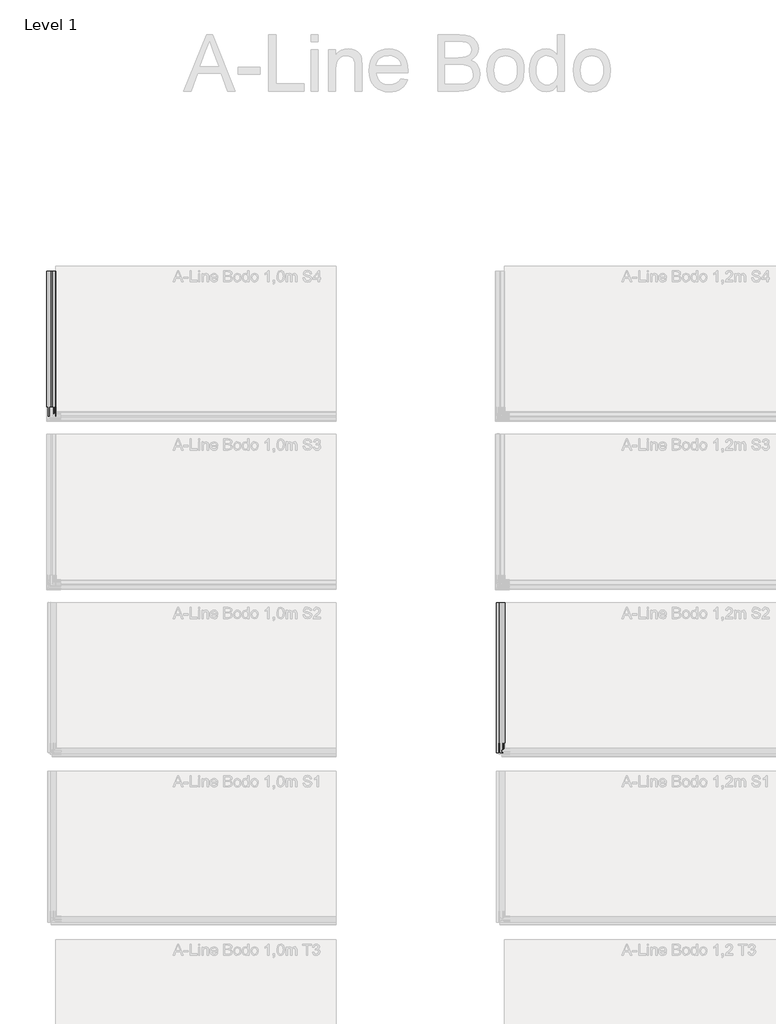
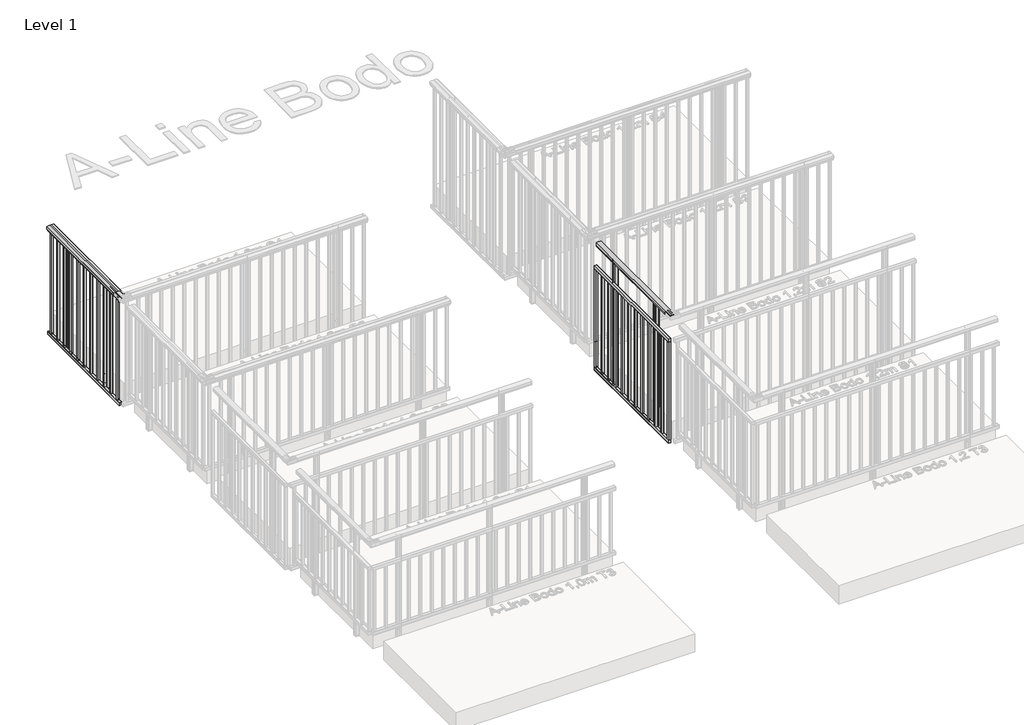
# One storey, part 12 of 66: 2 railings.
"""IFC4 building model written with IfcOpenShell, lengths in millimetres."""

from ifc_helpers import new_model, si_unit, point, frame, frame_2d, origin, place, context, project, spatial, polyline, circle_curve, trimmed, segment, composite_curve, outline, extrude, element, save

model = new_model("IFC4")

# Units and contexts
model_context = context("Model", 3, world=origin())
ifc_project = project(units=[si_unit("LENGTHUNIT", "METRE", prefix="MILLI")], contexts=[model_context])

# Site, building, storey
site = spatial("IfcSite", under=ifc_project)
building = spatial("IfcBuilding", under=site)
storey = spatial("IfcBuildingStorey", under=building, Name="Level 1", Elevation=0.0)

# Railings
placement = place(None, origin())
element("IfcRailing", 1, ObjectType="A-Line Bodo 1,0m S4", at=placement, inside=storey, context=model_context, shape_type="SweptSolid", body=[
    extrude(outline(composite_curve([segment(polyline([(970.6825033, 4424.0540283), (970.0570224, 4424.6795093), (969.4717338, 4424.0942207), (965.5021186, 4424.0540283)]), True, "CONTINUOUS"), segment(trimmed(circle_curve(frame_2d((965.5021186, 4424.5540283)), 0.5), [point((965.5021186, 4424.0540283))], [point((965.0021186, 4424.5540283))], False, "CARTESIAN"), True, "CONTINUOUS"), segment(polyline([(965.0021186, 4424.5540283), (965.0021186, 4425.5540283), (979.5021186, 4425.5540283)]), True, "CONTINUOUS"), segment(trimmed(circle_curve(frame_2d((979.5021186, 4426.0540283)), 0.5), [point((979.5021186, 4425.5540283))], [point((980.0021186, 4426.0540283))], True, "CARTESIAN"), True, "CONTINUOUS"), segment(polyline([(980.0021186, 4426.0540283), (980.0021186, 4504.0540283)]), True, "CONTINUOUS"), segment(trimmed(circle_curve(frame_2d((979.5021186, 4504.0540283)), 0.5), [point((980.0021186, 4504.0540283))], [point((979.5021186, 4504.5540283))], True, "CARTESIAN"), True, "CONTINUOUS"), segment(polyline([(979.5021186, 4504.5540283), (965.0021186, 4504.5540283), (965.0021186, 4505.5540283)]), True, "CONTINUOUS"), segment(trimmed(circle_curve(frame_2d((965.5021186, 4505.5540283)), 0.5), [point((965.0021186, 4505.5540283))], [point((965.5021186, 4506.0540283))], False, "CARTESIAN"), True, "CONTINUOUS"), segment(polyline([(965.5021186, 4506.0540283), (969.2627449, 4506.0540283), (969.9177203, 4505.3990529), (970.5325033, 4506.0138359), (991.2139911, 4506.0540283)]), True, "CONTINUOUS"), segment(trimmed(circle_curve(frame_2d((991.2139911, 4503.0540283)), 3.0), [point((991.2139911, 4506.0540283))], [point((994.0180233, 4504.1205197))], False, "CARTESIAN"), True, "CONTINUOUS"), segment(trimmed(circle_curve(frame_2d((908.3938053, 4471.5540283)), 91.6083133), [point((994.0180233, 4504.1205197))], [point((1000.0021186, 4471.5540283))], False, "CARTESIAN"), True, "CONTINUOUS"), segment(polyline([(1000.0021186, 4471.5540283), (1000.0021186, 4458.5540283)]), True, "CONTINUOUS"), segment(trimmed(circle_curve(frame_2d((908.3938053, 4458.5540283)), 91.6083133), [point((1000.0021186, 4458.5540283))], [point((994.0180233, 4425.987537))], False, "CARTESIAN"), True, "CONTINUOUS"), segment(trimmed(circle_curve(frame_2d((991.2139911, 4427.0540283)), 3.0), [point((994.0180233, 4425.987537))], [point((991.2139911, 4424.0540283))], False, "CARTESIAN"), True, "CONTINUOUS"), segment(polyline([(991.2139911, 4424.0540283), (970.6825033, 4424.0540283)]), True, "CONTINUOUS")], self_intersect=False)), frame((0.0, -13108.5446761, 0.0), z_axis=(0.0, 1.0, 0.0), x_axis=(0.0, 0.0, 1.0)), (0.0, 0.0, 1.0), 1295.0),
    extrude(outline(composite_curve([segment(polyline([(977.0, 4434.5047322), (944.8, 4434.5047322)]), True, "CONTINUOUS"), segment(trimmed(circle_curve(frame_2d((944.8, 4435.5047322)), 1.0), [point((944.8, 4434.5047322))], [point((943.8, 4435.5047322))], False, "CARTESIAN"), True, "CONTINUOUS"), segment(polyline([(943.8, 4435.5047322), (943.8, 4462.6047322)]), True, "CONTINUOUS"), segment(trimmed(circle_curve(frame_2d((944.8, 4462.6047322)), 1.0), [point((943.8, 4462.6047322))], [point((944.8, 4463.6047322))], False, "CARTESIAN"), True, "CONTINUOUS"), segment(polyline([(944.8, 4463.6047322), (977.0, 4463.6047322)]), True, "CONTINUOUS"), segment(trimmed(circle_curve(frame_2d((977.0, 4462.6047322)), 1.0), [point((977.0, 4463.6047322))], [point((978.0, 4462.6047322))], False, "CARTESIAN"), True, "CONTINUOUS"), segment(polyline([(978.0, 4462.6047322), (978.0, 4435.5047322)]), True, "CONTINUOUS"), segment(trimmed(circle_curve(frame_2d((977.0, 4435.5047322)), 1.0), [point((978.0, 4435.5047322))], [point((977.0, 4434.5047322))], False, "CARTESIAN"), True, "CONTINUOUS")], self_intersect=False)), frame((0.0, -13108.5446761, 0.0), z_axis=(0.0, 1.0, 0.0), x_axis=(0.0, 0.0, 1.0)), (0.0, 0.0, 1.0), 1295.0),
    extrude(outline(composite_curve([segment(trimmed(circle_curve(frame_2d((-166.8, 4435.5047322)), 1.0), [point((-165.8, 4435.5047322))], [point((-166.8, 4434.5047322))], False, "CARTESIAN"), True, "CONTINUOUS"), segment(polyline([(-166.8, 4434.5047322), (-199.0, 4434.5047322)]), True, "CONTINUOUS"), segment(trimmed(circle_curve(frame_2d((-199.0, 4435.5047322)), 1.0), [point((-199.0, 4434.5047322))], [point((-200.0, 4435.5047322))], False, "CARTESIAN"), True, "CONTINUOUS"), segment(polyline([(-200.0, 4435.5047322), (-200.0, 4462.6047322)]), True, "CONTINUOUS"), segment(trimmed(circle_curve(frame_2d((-199.0, 4462.6047322)), 1.0), [point((-200.0, 4462.6047322))], [point((-199.0, 4463.6047322))], False, "CARTESIAN"), True, "CONTINUOUS"), segment(polyline([(-199.0, 4463.6047322), (-166.8, 4463.6047322)]), True, "CONTINUOUS"), segment(trimmed(circle_curve(frame_2d((-166.8, 4462.6047322)), 1.0), [point((-166.8, 4463.6047322))], [point((-165.8, 4462.6047322))], False, "CARTESIAN"), True, "CONTINUOUS"), segment(polyline([(-165.8, 4462.6047322), (-165.8, 4435.5047322)]), True, "CONTINUOUS")], self_intersect=False)), frame((0.0, -13108.5446761, 0.0), z_axis=(0.0, 1.0, 0.0), x_axis=(0.0, 0.0, 1.0)), (0.0, 0.0, 1.0), 1295.0),
    extrude(outline(polyline([(4439.0547322, -13051.0446761), (4459.0547322, -13051.0446761), (4459.0547322, -13071.0446761), (4439.0547322, -13071.0446761), (4439.0547322, -13051.0446761)]), holes=[polyline([(4441.0547322, -13053.0446761), (4441.0547322, -13069.0446761), (4457.0547322, -13069.0446761), (4457.0547322, -13053.0446761), (4441.0547322, -13053.0446761)])]), frame((0.0, 0.0, -166.0), z_axis=(0.0, 0.0, 1.0), x_axis=(1.0, 0.0, 0.0)), (0.0, 0.0, 1.0), 1110.0),
    extrude(outline(polyline([(4439.0547322, -12931.0446761), (4459.0547322, -12931.0446761), (4459.0547322, -12951.0446761), (4439.0547322, -12951.0446761), (4439.0547322, -12931.0446761)]), holes=[polyline([(4441.0547322, -12933.0446761), (4441.0547322, -12949.0446761), (4457.0547322, -12949.0446761), (4457.0547322, -12933.0446761), (4441.0547322, -12933.0446761)])]), frame((0.0, 0.0, -166.0), z_axis=(0.0, 0.0, 1.0), x_axis=(1.0, 0.0, 0.0)), (0.0, 0.0, 1.0), 1110.0),
    extrude(outline(polyline([(4439.0547322, -12811.0446761), (4459.0547322, -12811.0446761), (4459.0547322, -12831.0446761), (4439.0547322, -12831.0446761), (4439.0547322, -12811.0446761)]), holes=[polyline([(4441.0547322, -12813.0446761), (4441.0547322, -12829.0446761), (4457.0547322, -12829.0446761), (4457.0547322, -12813.0446761), (4441.0547322, -12813.0446761)])]), frame((0.0, 0.0, -166.0), z_axis=(0.0, 0.0, 1.0), x_axis=(1.0, 0.0, 0.0)), (0.0, 0.0, 1.0), 1110.0),
    extrude(outline(polyline([(4439.0547322, -12691.0446761), (4459.0547322, -12691.0446761), (4459.0547322, -12711.0446761), (4439.0547322, -12711.0446761), (4439.0547322, -12691.0446761)]), holes=[polyline([(4441.0547322, -12693.0446761), (4441.0547322, -12709.0446761), (4457.0547322, -12709.0446761), (4457.0547322, -12693.0446761), (4441.0547322, -12693.0446761)])]), frame((0.0, 0.0, -166.0), z_axis=(0.0, 0.0, 1.0), x_axis=(1.0, 0.0, 0.0)), (0.0, 0.0, 1.0), 1110.0),
    extrude(outline(polyline([(4439.0547322, -12571.0446761), (4459.0547322, -12571.0446761), (4459.0547322, -12591.0446761), (4439.0547322, -12591.0446761), (4439.0547322, -12571.0446761)]), holes=[polyline([(4441.0547322, -12573.0446761), (4441.0547322, -12589.0446761), (4457.0547322, -12589.0446761), (4457.0547322, -12573.0446761), (4441.0547322, -12573.0446761)])]), frame((0.0, 0.0, -166.0), z_axis=(0.0, 0.0, 1.0), x_axis=(1.0, 0.0, 0.0)), (0.0, 0.0, 1.0), 1110.0),
    extrude(outline(polyline([(4439.0547322, -12451.0446761), (4459.0547322, -12451.0446761), (4459.0547322, -12471.0446761), (4439.0547322, -12471.0446761), (4439.0547322, -12451.0446761)]), holes=[polyline([(4441.0547322, -12453.0446761), (4441.0547322, -12469.0446761), (4457.0547322, -12469.0446761), (4457.0547322, -12453.0446761), (4441.0547322, -12453.0446761)])]), frame((0.0, 0.0, -166.0), z_axis=(0.0, 0.0, 1.0), x_axis=(1.0, 0.0, 0.0)), (0.0, 0.0, 1.0), 1110.0),
    extrude(outline(polyline([(4439.0547322, -12331.0446761), (4459.0547322, -12331.0446761), (4459.0547322, -12351.0446761), (4439.0547322, -12351.0446761), (4439.0547322, -12331.0446761)]), holes=[polyline([(4441.0547322, -12333.0446761), (4441.0547322, -12349.0446761), (4457.0547322, -12349.0446761), (4457.0547322, -12333.0446761), (4441.0547322, -12333.0446761)])]), frame((0.0, 0.0, -166.0), z_axis=(0.0, 0.0, 1.0), x_axis=(1.0, 0.0, 0.0)), (0.0, 0.0, 1.0), 1110.0),
    extrude(outline(polyline([(4439.0547322, -12211.0446761), (4459.0547322, -12211.0446761), (4459.0547322, -12231.0446761), (4439.0547322, -12231.0446761), (4439.0547322, -12211.0446761)]), holes=[polyline([(4441.0547322, -12213.0446761), (4441.0547322, -12229.0446761), (4457.0547322, -12229.0446761), (4457.0547322, -12213.0446761), (4441.0547322, -12213.0446761)])]), frame((0.0, 0.0, -166.0), z_axis=(0.0, 0.0, 1.0), x_axis=(1.0, 0.0, 0.0)), (0.0, 0.0, 1.0), 1110.0),
    extrude(outline(polyline([(4439.0547322, -12091.0446761), (4459.0547322, -12091.0446761), (4459.0547322, -12111.0446761), (4439.0547322, -12111.0446761), (4439.0547322, -12091.0446761)]), holes=[polyline([(4441.0547322, -12093.0446761), (4441.0547322, -12109.0446761), (4457.0547322, -12109.0446761), (4457.0547322, -12093.0446761), (4441.0547322, -12093.0446761)])]), frame((0.0, 0.0, -166.0), z_axis=(0.0, 0.0, 1.0), x_axis=(1.0, 0.0, 0.0)), (0.0, 0.0, 1.0), 1110.0),
    extrude(outline(polyline([(4439.0547322, -11971.0446761), (4459.0547322, -11971.0446761), (4459.0547322, -11991.0446761), (4439.0547322, -11991.0446761), (4439.0547322, -11971.0446761)]), holes=[polyline([(4441.0547322, -11973.0446761), (4441.0547322, -11989.0446761), (4457.0547322, -11989.0446761), (4457.0547322, -11973.0446761), (4441.0547322, -11973.0446761)])]), frame((0.0, 0.0, -166.0), z_axis=(0.0, 0.0, 1.0), x_axis=(1.0, 0.0, 0.0)), (0.0, 0.0, 1.0), 1110.0),
    extrude(outline(polyline([(4439.0547322, -11851.0446761), (4459.0547322, -11851.0446761), (4459.0547322, -11871.0446761), (4439.0547322, -11871.0446761), (4439.0547322, -11851.0446761)]), holes=[polyline([(4441.0547322, -11853.0446761), (4441.0547322, -11869.0446761), (4457.0547322, -11869.0446761), (4457.0547322, -11853.0446761), (4441.0547322, -11853.0446761)])]), frame((0.0, 0.0, -166.0), z_axis=(0.0, 0.0, 1.0), x_axis=(1.0, 0.0, 0.0)), (0.0, 0.0, 1.0), 1110.0),
    extrude(outline(composite_curve([segment(polyline([(4504.0547322, -12809.3474631), (4504.0547322, -12826.370763)]), True, "CONTINUOUS"), segment(trimmed(circle_curve(frame_2d((4501.8808192, -12826.370763)), 2.173913), [point((4504.0547322, -12826.370763))], [point((4501.8808192, -12828.5446761))], False, "CARTESIAN"), True, "CONTINUOUS"), segment(polyline([(4501.8808192, -12828.5446761), (4466.2286453, -12828.5446761)]), True, "CONTINUOUS"), segment(trimmed(circle_curve(frame_2d((4466.2286453, -12826.370763)), 2.173913), [point((4466.2286453, -12828.5446761))], [point((4464.0547322, -12826.370763))], False, "CARTESIAN"), True, "CONTINUOUS"), segment(polyline([(4464.0547322, -12826.370763), (4464.0896821, -12809.3125132), (4464.8575193, -12808.5446761), (4464.0896821, -12807.7768389), (4464.0547322, -12790.7185891)]), True, "CONTINUOUS"), segment(trimmed(circle_curve(frame_2d((4466.2286453, -12790.7185891)), 2.173913), [point((4464.0547322, -12790.7185891))], [point((4466.2286453, -12788.5446761))], False, "CARTESIAN"), True, "CONTINUOUS"), segment(polyline([(4466.2286453, -12788.5446761), (4501.8808192, -12788.5446761)]), True, "CONTINUOUS"), segment(trimmed(circle_curve(frame_2d((4501.8808192, -12790.7185891)), 2.173913), [point((4501.8808192, -12788.5446761))], [point((4504.0547322, -12790.718589))], False, "CARTESIAN"), True, "CONTINUOUS"), segment(polyline([(4504.0547322, -12790.718589), (4504.0197823, -12807.7768389), (4503.2519452, -12808.5446761), (4504.0547322, -12809.3474631)]), True, "CONTINUOUS")], self_intersect=False)), frame((0.0, 0.0, -200.0), z_axis=(0.0, 0.0, 1.0), x_axis=(1.0, 0.0, 0.0)), (0.0, 0.0, 1.0), 10.0),
    extrude(outline(composite_curve([segment(trimmed(circle_curve(frame_2d((4501.8808192, -12790.7185891)), 2.173913), [point((4501.8808192, -12788.5446761))], [point((4504.0547322, -12790.7185891))], False, "CARTESIAN"), True, "CONTINUOUS"), segment(polyline([(4504.0547322, -12790.7185891), (4504.0197823, -12807.7768389), (4503.6517779, -12808.6751108), (4504.0547322, -12809.442948), (4504.0547322, -12826.370763)]), True, "CONTINUOUS"), segment(trimmed(circle_curve(frame_2d((4501.8808192, -12826.370763)), 2.173913), [point((4504.0547322, -12826.370763))], [point((4501.8808192, -12828.5446761))], False, "CARTESIAN"), True, "CONTINUOUS"), segment(polyline([(4501.8808192, -12828.5446761), (4466.2286453, -12828.5446761)]), True, "CONTINUOUS"), segment(trimmed(circle_curve(frame_2d((4466.2286453, -12826.370763)), 2.173913), [point((4466.2286453, -12828.5446761))], [point((4464.0547322, -12826.370763))], False, "CARTESIAN"), True, "CONTINUOUS"), segment(polyline([(4464.0547322, -12826.370763), (4464.0896821, -12809.3125132), (4464.8575193, -12808.5446761), (4464.0896821, -12807.7768389), (4464.0547322, -12790.7185891)]), True, "CONTINUOUS"), segment(trimmed(circle_curve(frame_2d((4466.2286453, -12790.7185891)), 2.173913), [point((4464.0547322, -12790.7185891))], [point((4466.2286453, -12788.5446761))], False, "CARTESIAN"), True, "CONTINUOUS"), segment(polyline([(4466.2286453, -12788.5446761), (4501.8808192, -12788.5446761)]), True, "CONTINUOUS")], self_intersect=False), holes=[composite_curve([segment(polyline([(4499.7069062, -12792.0229369), (4468.4025583, -12792.0229369)]), True, "CONTINUOUS"), segment(trimmed(circle_curve(frame_2d((4468.4025583, -12792.8925022)), 0.8695652), [point((4468.4025583, -12792.0229369))], [point((4467.5329931, -12792.8925022))], True, "CARTESIAN"), True, "CONTINUOUS"), segment(polyline([(4467.5329931, -12792.8925022), (4467.5329931, -12824.19685)]), True, "CONTINUOUS"), segment(trimmed(circle_curve(frame_2d((4468.4025583, -12824.19685)), 0.8695652), [point((4467.5329931, -12824.19685))], [point((4468.4025583, -12825.0664152))], True, "CARTESIAN"), True, "CONTINUOUS"), segment(polyline([(4468.4025583, -12825.0664152), (4499.7069062, -12825.0664152)]), True, "CONTINUOUS"), segment(trimmed(circle_curve(frame_2d((4499.7069062, -12824.19685)), 0.8695652), [point((4499.7069062, -12825.0664152))], [point((4500.5764714, -12824.19685))], True, "CARTESIAN"), True, "CONTINUOUS"), segment(polyline([(4500.5764714, -12824.19685), (4500.5764714, -12792.8925022)]), True, "CONTINUOUS"), segment(trimmed(circle_curve(frame_2d((4499.7069062, -12792.8925022)), 0.8695652), [point((4500.5764714, -12792.8925022))], [point((4499.7069062, -12792.0229369))], True, "CARTESIAN"), True, "CONTINUOUS")], self_intersect=False)]), frame((0.0, 0.0, -190.0), z_axis=(0.0, 0.0, 1.0), x_axis=(1.0, 0.0, 0.0)), (0.0, 0.0, 1.0), 1171.0),
    extrude(outline(composite_curve([segment(trimmed(circle_curve(frame_2d((0.0, 12.0)), 12.0), [point((0.0, 23.9999999))], [point((0.0, 0.0))], False, "CARTESIAN"), True, "CONTINUOUS"), segment(trimmed(circle_curve(frame_2d((0.0, 12.0)), 12.0), [point((0.0, 0.0))], [point((0.0, 23.9999999))], False, "CARTESIAN"), True, "CONTINUOUS")], self_intersect=False)), frame((4464.0666505, -12796.5356385, -151.0), z_axis=(-0.9999999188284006, 0.00040291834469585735, 0.0), x_axis=(0.0, 0.0, -1.0)), (0.0, 0.0, 1.0), 3.0757477),
    extrude(outline(composite_curve([segment(trimmed(circle_curve(frame_2d((0.0, 12.0)), 12.0), [point((0.0, 23.9999999))], [point((0.0, 0.0))], False, "CARTESIAN"), True, "CONTINUOUS"), segment(trimmed(circle_curve(frame_2d((0.0, 12.0)), 12.0), [point((0.0, 0.0))], [point((0.0, 23.9999999))], False, "CARTESIAN"), True, "CONTINUOUS")], self_intersect=False)), frame((4464.0666505, -12796.5356385, -50.0), z_axis=(-0.9999999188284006, 0.00040291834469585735, 0.0), x_axis=(0.0, 0.0, -1.0)), (0.0, 0.0, 1.0), 3.0757477),
    extrude(outline(composite_curve([segment(polyline([(4504.0547322, -12114.3474631), (4504.0547322, -12131.370763)]), True, "CONTINUOUS"), segment(trimmed(circle_curve(frame_2d((4501.8808192, -12131.370763)), 2.173913), [point((4504.0547322, -12131.370763))], [point((4501.8808192, -12133.5446761))], False, "CARTESIAN"), True, "CONTINUOUS"), segment(polyline([(4501.8808192, -12133.5446761), (4466.2286453, -12133.5446761)]), True, "CONTINUOUS"), segment(trimmed(circle_curve(frame_2d((4466.2286453, -12131.370763)), 2.173913), [point((4466.2286453, -12133.5446761))], [point((4464.0547322, -12131.370763))], False, "CARTESIAN"), True, "CONTINUOUS"), segment(polyline([(4464.0547322, -12131.370763), (4464.0896821, -12114.3125132), (4464.8575193, -12113.5446761), (4464.0896821, -12112.7768389), (4464.0547322, -12095.7185891)]), True, "CONTINUOUS"), segment(trimmed(circle_curve(frame_2d((4466.2286453, -12095.7185891)), 2.173913), [point((4464.0547322, -12095.7185891))], [point((4466.2286453, -12093.5446761))], False, "CARTESIAN"), True, "CONTINUOUS"), segment(polyline([(4466.2286453, -12093.5446761), (4501.8808192, -12093.5446761)]), True, "CONTINUOUS"), segment(trimmed(circle_curve(frame_2d((4501.8808192, -12095.7185891)), 2.173913), [point((4501.8808192, -12093.5446761))], [point((4504.0547322, -12095.718589))], False, "CARTESIAN"), True, "CONTINUOUS"), segment(polyline([(4504.0547322, -12095.718589), (4504.0197823, -12112.7768389), (4503.2519452, -12113.5446761), (4504.0547322, -12114.3474631)]), True, "CONTINUOUS")], self_intersect=False)), frame((0.0, 0.0, -200.0), z_axis=(0.0, 0.0, 1.0), x_axis=(1.0, 0.0, 0.0)), (0.0, 0.0, 1.0), 10.0),
    extrude(outline(composite_curve([segment(trimmed(circle_curve(frame_2d((4501.8808192, -12095.7185891)), 2.173913), [point((4501.8808192, -12093.5446761))], [point((4504.0547322, -12095.7185891))], False, "CARTESIAN"), True, "CONTINUOUS"), segment(polyline([(4504.0547322, -12095.7185891), (4504.0197823, -12112.7768389), (4503.6517779, -12113.6751108), (4504.0547322, -12114.442948), (4504.0547322, -12131.370763)]), True, "CONTINUOUS"), segment(trimmed(circle_curve(frame_2d((4501.8808192, -12131.370763)), 2.173913), [point((4504.0547322, -12131.370763))], [point((4501.8808192, -12133.5446761))], False, "CARTESIAN"), True, "CONTINUOUS"), segment(polyline([(4501.8808192, -12133.5446761), (4466.2286453, -12133.5446761)]), True, "CONTINUOUS"), segment(trimmed(circle_curve(frame_2d((4466.2286453, -12131.370763)), 2.173913), [point((4466.2286453, -12133.5446761))], [point((4464.0547322, -12131.370763))], False, "CARTESIAN"), True, "CONTINUOUS"), segment(polyline([(4464.0547322, -12131.370763), (4464.0896821, -12114.3125132), (4464.8575193, -12113.5446761), (4464.0896821, -12112.7768389), (4464.0547322, -12095.7185891)]), True, "CONTINUOUS"), segment(trimmed(circle_curve(frame_2d((4466.2286453, -12095.7185891)), 2.173913), [point((4464.0547322, -12095.7185891))], [point((4466.2286453, -12093.5446761))], False, "CARTESIAN"), True, "CONTINUOUS"), segment(polyline([(4466.2286453, -12093.5446761), (4501.8808192, -12093.5446761)]), True, "CONTINUOUS")], self_intersect=False), holes=[composite_curve([segment(polyline([(4499.7069062, -12097.0229369), (4468.4025583, -12097.0229369)]), True, "CONTINUOUS"), segment(trimmed(circle_curve(frame_2d((4468.4025583, -12097.8925022)), 0.8695652), [point((4468.4025583, -12097.0229369))], [point((4467.5329931, -12097.8925022))], True, "CARTESIAN"), True, "CONTINUOUS"), segment(polyline([(4467.5329931, -12097.8925022), (4467.5329931, -12129.19685)]), True, "CONTINUOUS"), segment(trimmed(circle_curve(frame_2d((4468.4025583, -12129.19685)), 0.8695652), [point((4467.5329931, -12129.19685))], [point((4468.4025583, -12130.0664152))], True, "CARTESIAN"), True, "CONTINUOUS"), segment(polyline([(4468.4025583, -12130.0664152), (4499.7069062, -12130.0664152)]), True, "CONTINUOUS"), segment(trimmed(circle_curve(frame_2d((4499.7069062, -12129.19685)), 0.8695652), [point((4499.7069062, -12130.0664152))], [point((4500.5764714, -12129.19685))], True, "CARTESIAN"), True, "CONTINUOUS"), segment(polyline([(4500.5764714, -12129.19685), (4500.5764714, -12097.8925022)]), True, "CONTINUOUS"), segment(trimmed(circle_curve(frame_2d((4499.7069062, -12097.8925022)), 0.8695652), [point((4500.5764714, -12097.8925022))], [point((4499.7069062, -12097.0229369))], True, "CARTESIAN"), True, "CONTINUOUS")], self_intersect=False)]), frame((0.0, 0.0, -190.0), z_axis=(0.0, 0.0, 1.0), x_axis=(1.0, 0.0, 0.0)), (0.0, 0.0, 1.0), 1171.0),
    extrude(outline(composite_curve([segment(trimmed(circle_curve(frame_2d((0.0, 12.0)), 12.0), [point((0.0, 23.9999999))], [point((0.0, 0.0))], False, "CARTESIAN"), True, "CONTINUOUS"), segment(trimmed(circle_curve(frame_2d((0.0, 12.0)), 12.0), [point((0.0, 0.0))], [point((0.0, 23.9999999))], False, "CARTESIAN"), True, "CONTINUOUS")], self_intersect=False)), frame((4464.0666505, -12101.5356385, -151.0), z_axis=(-0.9999999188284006, 0.00040291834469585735, 0.0), x_axis=(0.0, 0.0, -1.0)), (0.0, 0.0, 1.0), 3.0757477),
    extrude(outline(composite_curve([segment(trimmed(circle_curve(frame_2d((0.0, 12.0)), 12.0), [point((0.0, 23.9999999))], [point((0.0, 0.0))], False, "CARTESIAN"), True, "CONTINUOUS"), segment(trimmed(circle_curve(frame_2d((0.0, 12.0)), 12.0), [point((0.0, 0.0))], [point((0.0, 23.9999999))], False, "CARTESIAN"), True, "CONTINUOUS")], self_intersect=False)), frame((4464.0666505, -12101.5356385, -50.0), z_axis=(-0.9999999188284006, 0.00040291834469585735, 0.0), x_axis=(0.0, 0.0, -1.0)), (0.0, 0.0, 1.0), 3.0757477),
])
element("IfcRailing", 2, ObjectType="A-Line Bodo 1,2m S2", at=placement, inside=storey, context=model_context, shape_type="SweptSolid", body=[
    extrude(outline(composite_curve([segment(trimmed(circle_curve(frame_2d((1142.6785502, 8483.339356)), 57.3235687), [point((1194.1390059, 8508.5943162))], [point((1194.1342258, 8458.074658))], False, "CARTESIAN"), True, "CONTINUOUS"), segment(polyline([(1194.1342258, 8458.074658), (1167.0235023, 8458.074658), (1166.4415706, 8458.6565897), (1165.8194895, 8458.0345086), (1157.2498847, 8458.0345086), (1157.2498847, 8459.8394615), (1180.4998829, 8459.8394615), (1180.4998829, 8506.8345077), (1157.2498847, 8506.8345077), (1157.2498847, 8508.5943162), (1165.9694895, 8508.5943162), (1166.5842725, 8507.9795332), (1167.1990555, 8508.5943162), (1194.1390059, 8508.5943162)]), True, "CONTINUOUS")], self_intersect=False)), frame((0.0, -16104.7113559, 0.0), z_axis=(0.0, 1.0, 0.0), x_axis=(0.0, 0.0, 1.0)), (0.0, 0.0, 1.0), 1335.0),
    extrude(outline(composite_curve([segment(polyline([(949.0, 8434.5047322), (916.8, 8434.5047322)]), True, "CONTINUOUS"), segment(trimmed(circle_curve(frame_2d((916.8, 8435.5047322)), 1.0), [point((916.8, 8434.5047322))], [point((915.8, 8435.5047322))], False, "CARTESIAN"), True, "CONTINUOUS"), segment(polyline([(915.8, 8435.5047322), (915.8, 8462.6047322)]), True, "CONTINUOUS"), segment(trimmed(circle_curve(frame_2d((916.8, 8462.6047322)), 1.0), [point((915.8, 8462.6047322))], [point((916.8, 8463.6047322))], False, "CARTESIAN"), True, "CONTINUOUS"), segment(polyline([(916.8, 8463.6047322), (949.0, 8463.6047322)]), True, "CONTINUOUS"), segment(trimmed(circle_curve(frame_2d((949.0, 8462.6047322)), 1.0), [point((949.0, 8463.6047322))], [point((950.0, 8462.6047322))], False, "CARTESIAN"), True, "CONTINUOUS"), segment(polyline([(950.0, 8462.6047322), (950.0, 8435.5047322)]), True, "CONTINUOUS"), segment(trimmed(circle_curve(frame_2d((949.0, 8435.5047322)), 1.0), [point((950.0, 8435.5047322))], [point((949.0, 8434.5047322))], False, "CARTESIAN"), True, "CONTINUOUS")], self_intersect=False)), frame((0.0, -16104.7113559, 0.0), z_axis=(0.0, 1.0, 0.0), x_axis=(0.0, 0.0, 1.0)), (0.0, 0.0, 1.0), 1335.0),
    extrude(outline(composite_curve([segment(trimmed(circle_curve(frame_2d((-166.8, 8435.5047322)), 1.0), [point((-165.8, 8435.5047322))], [point((-166.8, 8434.5047322))], False, "CARTESIAN"), True, "CONTINUOUS"), segment(polyline([(-166.8, 8434.5047322), (-199.0, 8434.5047322)]), True, "CONTINUOUS"), segment(trimmed(circle_curve(frame_2d((-199.0, 8435.5047322)), 1.0), [point((-199.0, 8434.5047322))], [point((-200.0, 8435.5047322))], False, "CARTESIAN"), True, "CONTINUOUS"), segment(polyline([(-200.0, 8435.5047322), (-200.0, 8462.6047322)]), True, "CONTINUOUS"), segment(trimmed(circle_curve(frame_2d((-199.0, 8462.6047322)), 1.0), [point((-200.0, 8462.6047322))], [point((-199.0, 8463.6047322))], False, "CARTESIAN"), True, "CONTINUOUS"), segment(polyline([(-199.0, 8463.6047322), (-166.8, 8463.6047322)]), True, "CONTINUOUS"), segment(trimmed(circle_curve(frame_2d((-166.8, 8462.6047322)), 1.0), [point((-166.8, 8463.6047322))], [point((-165.8, 8462.6047322))], False, "CARTESIAN"), True, "CONTINUOUS"), segment(polyline([(-165.8, 8462.6047322), (-165.8, 8435.5047322)]), True, "CONTINUOUS")], self_intersect=False)), frame((0.0, -16104.7113559, 0.0), z_axis=(0.0, 1.0, 0.0), x_axis=(0.0, 0.0, 1.0)), (0.0, 0.0, 1.0), 1335.0),
    extrude(outline(polyline([(8439.0547322, -16087.2113559), (8459.0547322, -16087.2113559), (8459.0547322, -16107.2113559), (8439.0547322, -16107.2113559), (8439.0547322, -16087.2113559)]), holes=[polyline([(8441.0547322, -16089.2113559), (8441.0547322, -16105.2113559), (8457.0547322, -16105.2113559), (8457.0547322, -16089.2113559), (8441.0547322, -16089.2113559)])]), frame((0.0, 0.0, -166.0), z_axis=(0.0, 0.0, 1.0), x_axis=(1.0, 0.0, 0.0)), (0.0, 0.0, 1.0), 1082.0),
    extrude(outline(polyline([(8439.0547322, -15967.2113559), (8459.0547322, -15967.2113559), (8459.0547322, -15987.2113559), (8439.0547322, -15987.2113559), (8439.0547322, -15967.2113559)]), holes=[polyline([(8441.0547322, -15969.2113559), (8441.0547322, -15985.2113559), (8457.0547322, -15985.2113559), (8457.0547322, -15969.2113559), (8441.0547322, -15969.2113559)])]), frame((0.0, 0.0, -166.0), z_axis=(0.0, 0.0, 1.0), x_axis=(1.0, 0.0, 0.0)), (0.0, 0.0, 1.0), 1082.0),
    extrude(outline(polyline([(8439.0547322, -15847.2113559), (8459.0547322, -15847.2113559), (8459.0547322, -15867.2113559), (8439.0547322, -15867.2113559), (8439.0547322, -15847.2113559)]), holes=[polyline([(8441.0547322, -15849.2113559), (8441.0547322, -15865.2113559), (8457.0547322, -15865.2113559), (8457.0547322, -15849.2113559), (8441.0547322, -15849.2113559)])]), frame((0.0, 0.0, -166.0), z_axis=(0.0, 0.0, 1.0), x_axis=(1.0, 0.0, 0.0)), (0.0, 0.0, 1.0), 1082.0),
    extrude(outline(polyline([(8439.0547322, -15727.2113559), (8459.0547322, -15727.2113559), (8459.0547322, -15747.2113559), (8439.0547322, -15747.2113559), (8439.0547322, -15727.2113559)]), holes=[polyline([(8441.0547322, -15729.2113559), (8441.0547322, -15745.2113559), (8457.0547322, -15745.2113559), (8457.0547322, -15729.2113559), (8441.0547322, -15729.2113559)])]), frame((0.0, 0.0, -166.0), z_axis=(0.0, 0.0, 1.0), x_axis=(1.0, 0.0, 0.0)), (0.0, 0.0, 1.0), 1082.0),
    extrude(outline(polyline([(8439.0547322, -15607.2113559), (8459.0547322, -15607.2113559), (8459.0547322, -15627.2113559), (8439.0547322, -15627.2113559), (8439.0547322, -15607.2113559)]), holes=[polyline([(8441.0547322, -15609.2113559), (8441.0547322, -15625.2113559), (8457.0547322, -15625.2113559), (8457.0547322, -15609.2113559), (8441.0547322, -15609.2113559)])]), frame((0.0, 0.0, -166.0), z_axis=(0.0, 0.0, 1.0), x_axis=(1.0, 0.0, 0.0)), (0.0, 0.0, 1.0), 1082.0),
    extrude(outline(polyline([(8439.0547322, -15487.2113559), (8459.0547322, -15487.2113559), (8459.0547322, -15507.2113559), (8439.0547322, -15507.2113559), (8439.0547322, -15487.2113559)]), holes=[polyline([(8441.0547322, -15489.2113559), (8441.0547322, -15505.2113559), (8457.0547322, -15505.2113559), (8457.0547322, -15489.2113559), (8441.0547322, -15489.2113559)])]), frame((0.0, 0.0, -166.0), z_axis=(0.0, 0.0, 1.0), x_axis=(1.0, 0.0, 0.0)), (0.0, 0.0, 1.0), 1082.0),
    extrude(outline(polyline([(8439.0547322, -15367.2113559), (8459.0547322, -15367.2113559), (8459.0547322, -15387.2113559), (8439.0547322, -15387.2113559), (8439.0547322, -15367.2113559)]), holes=[polyline([(8441.0547322, -15369.2113559), (8441.0547322, -15385.2113559), (8457.0547322, -15385.2113559), (8457.0547322, -15369.2113559), (8441.0547322, -15369.2113559)])]), frame((0.0, 0.0, -166.0), z_axis=(0.0, 0.0, 1.0), x_axis=(1.0, 0.0, 0.0)), (0.0, 0.0, 1.0), 1082.0),
    extrude(outline(polyline([(8439.0547322, -15247.2113559), (8459.0547322, -15247.2113559), (8459.0547322, -15267.2113559), (8439.0547322, -15267.2113559), (8439.0547322, -15247.2113559)]), holes=[polyline([(8441.0547322, -15249.2113559), (8441.0547322, -15265.2113559), (8457.0547322, -15265.2113559), (8457.0547322, -15249.2113559), (8441.0547322, -15249.2113559)])]), frame((0.0, 0.0, -166.0), z_axis=(0.0, 0.0, 1.0), x_axis=(1.0, 0.0, 0.0)), (0.0, 0.0, 1.0), 1082.0),
    extrude(outline(polyline([(8439.0547322, -15127.2113559), (8459.0547322, -15127.2113559), (8459.0547322, -15147.2113559), (8439.0547322, -15147.2113559), (8439.0547322, -15127.2113559)]), holes=[polyline([(8441.0547322, -15129.2113559), (8441.0547322, -15145.2113559), (8457.0547322, -15145.2113559), (8457.0547322, -15129.2113559), (8441.0547322, -15129.2113559)])]), frame((0.0, 0.0, -166.0), z_axis=(0.0, 0.0, 1.0), x_axis=(1.0, 0.0, 0.0)), (0.0, 0.0, 1.0), 1082.0),
    extrude(outline(polyline([(8439.0547322, -15007.2113559), (8459.0547322, -15007.2113559), (8459.0547322, -15027.2113559), (8439.0547322, -15027.2113559), (8439.0547322, -15007.2113559)]), holes=[polyline([(8441.0547322, -15009.2113559), (8441.0547322, -15025.2113559), (8457.0547322, -15025.2113559), (8457.0547322, -15009.2113559), (8441.0547322, -15009.2113559)])]), frame((0.0, 0.0, -166.0), z_axis=(0.0, 0.0, 1.0), x_axis=(1.0, 0.0, 0.0)), (0.0, 0.0, 1.0), 1082.0),
    extrude(outline(polyline([(8439.0547322, -14887.2113559), (8459.0547322, -14887.2113559), (8459.0547322, -14907.2113559), (8439.0547322, -14907.2113559), (8439.0547322, -14887.2113559)]), holes=[polyline([(8441.0547322, -14889.2113559), (8441.0547322, -14905.2113559), (8457.0547322, -14905.2113559), (8457.0547322, -14889.2113559), (8441.0547322, -14889.2113559)])]), frame((0.0, 0.0, -166.0), z_axis=(0.0, 0.0, 1.0), x_axis=(1.0, 0.0, 0.0)), (0.0, 0.0, 1.0), 1082.0),
    extrude(outline(polyline([(8439.0547322, -14767.2113559), (8459.0547322, -14767.2113559), (8459.0547322, -14787.2113559), (8439.0547322, -14787.2113559), (8439.0547322, -14767.2113559)]), holes=[polyline([(8441.0547322, -14769.2113559), (8441.0547322, -14785.2113559), (8457.0547322, -14785.2113559), (8457.0547322, -14769.2113559), (8441.0547322, -14769.2113559)])]), frame((0.0, 0.0, -166.0), z_axis=(0.0, 0.0, 1.0), x_axis=(1.0, 0.0, 0.0)), (0.0, 0.0, 1.0), 1082.0),
    extrude(outline(composite_curve([segment(polyline([(8504.0547322, -15805.5141429), (8504.0547322, -15822.5374429)]), True, "CONTINUOUS"), segment(trimmed(circle_curve(frame_2d((8501.8808192, -15822.5374429)), 2.173913), [point((8504.0547322, -15822.5374429))], [point((8501.8808192, -15824.7113559))], False, "CARTESIAN"), True, "CONTINUOUS"), segment(polyline([(8501.8808192, -15824.7113559), (8466.2286453, -15824.7113559)]), True, "CONTINUOUS"), segment(trimmed(circle_curve(frame_2d((8466.2286453, -15822.5374429)), 2.173913), [point((8466.2286453, -15824.7113559))], [point((8464.0547322, -15822.5374429))], False, "CARTESIAN"), True, "CONTINUOUS"), segment(polyline([(8464.0547322, -15822.5374429), (8464.0896821, -15805.479193), (8464.8575193, -15804.7113559), (8464.0896821, -15803.9435188), (8464.0547322, -15786.885269)]), True, "CONTINUOUS"), segment(trimmed(circle_curve(frame_2d((8466.2286453, -15786.885269)), 2.173913), [point((8464.0547322, -15786.885269))], [point((8466.2286453, -15784.7113559))], False, "CARTESIAN"), True, "CONTINUOUS"), segment(polyline([(8466.2286453, -15784.7113559), (8501.8808192, -15784.7113559)]), True, "CONTINUOUS"), segment(trimmed(circle_curve(frame_2d((8501.8808192, -15786.885269)), 2.173913), [point((8501.8808192, -15784.7113559))], [point((8504.0547322, -15786.8852689))], False, "CARTESIAN"), True, "CONTINUOUS"), segment(polyline([(8504.0547322, -15786.8852689), (8504.0197823, -15803.9435188), (8503.2519452, -15804.7113559), (8504.0547322, -15805.5141429)]), True, "CONTINUOUS")], self_intersect=False)), frame((0.0, 0.0, -200.0), z_axis=(0.0, 0.0, 1.0), x_axis=(1.0, 0.0, 0.0)), (0.0, 0.0, 1.0), 10.0),
    extrude(outline(composite_curve([segment(trimmed(circle_curve(frame_2d((0.0, 12.0000001)), 12.0), [point((0.0, 24.0))], [point((0.0, 0.0))], False, "CARTESIAN"), True, "CONTINUOUS"), segment(trimmed(circle_curve(frame_2d((0.0, 12.0000001)), 12.0), [point((0.0, 0.0))], [point((0.0, 24.0))], False, "CARTESIAN"), True, "CONTINUOUS")], self_intersect=False)), frame((8464.0666505, -15792.7023183, -151.0), z_axis=(-0.9999999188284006, 0.00040291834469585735, 0.0), x_axis=(0.0, 0.0, -1.0)), (0.0, 0.0, 1.0), 3.0757477),
    extrude(outline(composite_curve([segment(trimmed(circle_curve(frame_2d((0.0, 12.0000001)), 12.0), [point((0.0, 24.0))], [point((0.0, 0.0))], False, "CARTESIAN"), True, "CONTINUOUS"), segment(trimmed(circle_curve(frame_2d((0.0, 12.0000001)), 12.0), [point((0.0, 0.0))], [point((0.0, 24.0))], False, "CARTESIAN"), True, "CONTINUOUS")], self_intersect=False)), frame((8464.0666505, -15792.7023183, -50.0), z_axis=(-0.9999999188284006, 0.00040291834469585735, 0.0), x_axis=(0.0, 0.0, -1.0)), (0.0, 0.0, 1.0), 3.0757477),
    extrude(outline(composite_curve([segment(trimmed(circle_curve(frame_2d((8501.8808192, -15786.885269)), 2.173913), [point((8501.8808192, -15784.7113559))], [point((8504.0547322, -15786.885269))], False, "CARTESIAN"), True, "CONTINUOUS"), segment(polyline([(8504.0547322, -15786.885269), (8504.0197823, -15803.9435188), (8503.6517779, -15804.8417907), (8504.0547322, -15805.6096278), (8504.0547322, -15822.5374429)]), True, "CONTINUOUS"), segment(trimmed(circle_curve(frame_2d((8501.8808192, -15822.5374429)), 2.173913), [point((8504.0547322, -15822.5374429))], [point((8501.8808192, -15824.7113559))], False, "CARTESIAN"), True, "CONTINUOUS"), segment(polyline([(8501.8808192, -15824.7113559), (8466.2286453, -15824.7113559)]), True, "CONTINUOUS"), segment(trimmed(circle_curve(frame_2d((8466.2286453, -15822.5374429)), 2.173913), [point((8466.2286453, -15824.7113559))], [point((8464.0547322, -15822.5374429))], False, "CARTESIAN"), True, "CONTINUOUS"), segment(polyline([(8464.0547322, -15822.5374429), (8464.0896821, -15805.479193), (8464.8575193, -15804.7113559), (8464.0896821, -15803.9435188), (8464.0547322, -15786.885269)]), True, "CONTINUOUS"), segment(trimmed(circle_curve(frame_2d((8466.2286453, -15786.885269)), 2.173913), [point((8464.0547322, -15786.885269))], [point((8466.2286453, -15784.7113559))], False, "CARTESIAN"), True, "CONTINUOUS"), segment(polyline([(8466.2286453, -15784.7113559), (8501.8808192, -15784.7113559)]), True, "CONTINUOUS")], self_intersect=False), holes=[composite_curve([segment(polyline([(8499.7069062, -15788.1896168), (8468.4025583, -15788.1896168)]), True, "CONTINUOUS"), segment(trimmed(circle_curve(frame_2d((8468.4025583, -15789.059182)), 0.8695652), [point((8468.4025583, -15788.1896168))], [point((8467.5329931, -15789.059182))], True, "CARTESIAN"), True, "CONTINUOUS"), segment(polyline([(8467.5329931, -15789.059182), (8467.5329931, -15820.3635298)]), True, "CONTINUOUS"), segment(trimmed(circle_curve(frame_2d((8468.4025583, -15820.3635298)), 0.8695652), [point((8467.5329931, -15820.3635298))], [point((8468.4025583, -15821.233095))], True, "CARTESIAN"), True, "CONTINUOUS"), segment(polyline([(8468.4025583, -15821.233095), (8499.7069062, -15821.233095)]), True, "CONTINUOUS"), segment(trimmed(circle_curve(frame_2d((8499.7069062, -15820.3635298)), 0.8695652), [point((8499.7069062, -15821.233095))], [point((8500.5764714, -15820.3635298))], True, "CARTESIAN"), True, "CONTINUOUS"), segment(polyline([(8500.5764714, -15820.3635298), (8500.5764714, -15789.059182)]), True, "CONTINUOUS"), segment(trimmed(circle_curve(frame_2d((8499.7069062, -15789.059182)), 0.8695652), [point((8500.5764714, -15789.059182))], [point((8499.7069062, -15788.1896168))], True, "CARTESIAN"), True, "CONTINUOUS")], self_intersect=False)]), frame((0.0, 0.0, -190.0), z_axis=(0.0, 0.0, 1.0), x_axis=(1.0, 0.0, 0.0)), (0.0, 0.0, 1.0), 1371.0),
    extrude(outline(composite_curve([segment(polyline([(8504.0547322, -15070.5141429), (8504.0547322, -15087.5374429)]), True, "CONTINUOUS"), segment(trimmed(circle_curve(frame_2d((8501.8808192, -15087.5374429)), 2.173913), [point((8504.0547322, -15087.5374429))], [point((8501.8808192, -15089.7113559))], False, "CARTESIAN"), True, "CONTINUOUS"), segment(polyline([(8501.8808192, -15089.7113559), (8466.2286453, -15089.7113559)]), True, "CONTINUOUS"), segment(trimmed(circle_curve(frame_2d((8466.2286453, -15087.5374429)), 2.173913), [point((8466.2286453, -15089.7113559))], [point((8464.0547322, -15087.5374429))], False, "CARTESIAN"), True, "CONTINUOUS"), segment(polyline([(8464.0547322, -15087.5374429), (8464.0896821, -15070.479193), (8464.8575193, -15069.7113559), (8464.0896821, -15068.9435188), (8464.0547322, -15051.885269)]), True, "CONTINUOUS"), segment(trimmed(circle_curve(frame_2d((8466.2286453, -15051.885269)), 2.173913), [point((8464.0547322, -15051.885269))], [point((8466.2286453, -15049.7113559))], False, "CARTESIAN"), True, "CONTINUOUS"), segment(polyline([(8466.2286453, -15049.7113559), (8501.8808192, -15049.7113559)]), True, "CONTINUOUS"), segment(trimmed(circle_curve(frame_2d((8501.8808192, -15051.885269)), 2.173913), [point((8501.8808192, -15049.7113559))], [point((8504.0547322, -15051.8852689))], False, "CARTESIAN"), True, "CONTINUOUS"), segment(polyline([(8504.0547322, -15051.8852689), (8504.0197823, -15068.9435188), (8503.2519452, -15069.7113559), (8504.0547322, -15070.5141429)]), True, "CONTINUOUS")], self_intersect=False)), frame((0.0, 0.0, -200.0), z_axis=(0.0, 0.0, 1.0), x_axis=(1.0, 0.0, 0.0)), (0.0, 0.0, 1.0), 10.0),
    extrude(outline(composite_curve([segment(trimmed(circle_curve(frame_2d((0.0, 12.0000001)), 12.0), [point((0.0, 24.0))], [point((0.0, 0.0))], False, "CARTESIAN"), True, "CONTINUOUS"), segment(trimmed(circle_curve(frame_2d((0.0, 12.0000001)), 12.0), [point((0.0, 0.0))], [point((0.0, 24.0))], False, "CARTESIAN"), True, "CONTINUOUS")], self_intersect=False)), frame((8464.0666505, -15057.7023183, -151.0), z_axis=(-0.9999999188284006, 0.00040291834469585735, 0.0), x_axis=(0.0, 0.0, -1.0)), (0.0, 0.0, 1.0), 3.0757477),
    extrude(outline(composite_curve([segment(trimmed(circle_curve(frame_2d((0.0, 12.0000001)), 12.0), [point((0.0, 24.0))], [point((0.0, 0.0))], False, "CARTESIAN"), True, "CONTINUOUS"), segment(trimmed(circle_curve(frame_2d((0.0, 12.0000001)), 12.0), [point((0.0, 0.0))], [point((0.0, 24.0))], False, "CARTESIAN"), True, "CONTINUOUS")], self_intersect=False)), frame((8464.0666505, -15057.7023183, -50.0), z_axis=(-0.9999999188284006, 0.00040291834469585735, 0.0), x_axis=(0.0, 0.0, -1.0)), (0.0, 0.0, 1.0), 3.0757477),
    extrude(outline(composite_curve([segment(trimmed(circle_curve(frame_2d((8501.8808192, -15051.885269)), 2.173913), [point((8501.8808192, -15049.7113559))], [point((8504.0547322, -15051.885269))], False, "CARTESIAN"), True, "CONTINUOUS"), segment(polyline([(8504.0547322, -15051.885269), (8504.0197823, -15068.9435188), (8503.6517779, -15069.8417907), (8504.0547322, -15070.6096278), (8504.0547322, -15087.5374429)]), True, "CONTINUOUS"), segment(trimmed(circle_curve(frame_2d((8501.8808192, -15087.5374429)), 2.173913), [point((8504.0547322, -15087.5374429))], [point((8501.8808192, -15089.7113559))], False, "CARTESIAN"), True, "CONTINUOUS"), segment(polyline([(8501.8808192, -15089.7113559), (8466.2286453, -15089.7113559)]), True, "CONTINUOUS"), segment(trimmed(circle_curve(frame_2d((8466.2286453, -15087.5374429)), 2.173913), [point((8466.2286453, -15089.7113559))], [point((8464.0547322, -15087.5374429))], False, "CARTESIAN"), True, "CONTINUOUS"), segment(polyline([(8464.0547322, -15087.5374429), (8464.0896821, -15070.479193), (8464.8575193, -15069.7113559), (8464.0896821, -15068.9435188), (8464.0547322, -15051.885269)]), True, "CONTINUOUS"), segment(trimmed(circle_curve(frame_2d((8466.2286453, -15051.885269)), 2.173913), [point((8464.0547322, -15051.885269))], [point((8466.2286453, -15049.7113559))], False, "CARTESIAN"), True, "CONTINUOUS"), segment(polyline([(8466.2286453, -15049.7113559), (8501.8808192, -15049.7113559)]), True, "CONTINUOUS")], self_intersect=False), holes=[composite_curve([segment(polyline([(8499.7069062, -15053.1896168), (8468.4025583, -15053.1896168)]), True, "CONTINUOUS"), segment(trimmed(circle_curve(frame_2d((8468.4025583, -15054.059182)), 0.8695652), [point((8468.4025583, -15053.1896168))], [point((8467.5329931, -15054.059182))], True, "CARTESIAN"), True, "CONTINUOUS"), segment(polyline([(8467.5329931, -15054.059182), (8467.5329931, -15085.3635298)]), True, "CONTINUOUS"), segment(trimmed(circle_curve(frame_2d((8468.4025583, -15085.3635298)), 0.8695652), [point((8467.5329931, -15085.3635298))], [point((8468.4025583, -15086.233095))], True, "CARTESIAN"), True, "CONTINUOUS"), segment(polyline([(8468.4025583, -15086.233095), (8499.7069062, -15086.233095)]), True, "CONTINUOUS"), segment(trimmed(circle_curve(frame_2d((8499.7069062, -15085.3635298)), 0.8695652), [point((8499.7069062, -15086.233095))], [point((8500.5764714, -15085.3635298))], True, "CARTESIAN"), True, "CONTINUOUS"), segment(polyline([(8500.5764714, -15085.3635298), (8500.5764714, -15054.059182)]), True, "CONTINUOUS"), segment(trimmed(circle_curve(frame_2d((8499.7069062, -15054.059182)), 0.8695652), [point((8500.5764714, -15054.059182))], [point((8499.7069062, -15053.1896168))], True, "CARTESIAN"), True, "CONTINUOUS")], self_intersect=False)]), frame((0.0, 0.0, -190.0), z_axis=(0.0, 0.0, 1.0), x_axis=(1.0, 0.0, 0.0)), (0.0, 0.0, 1.0), 1371.0),
])

save(model, "model.ifc")
